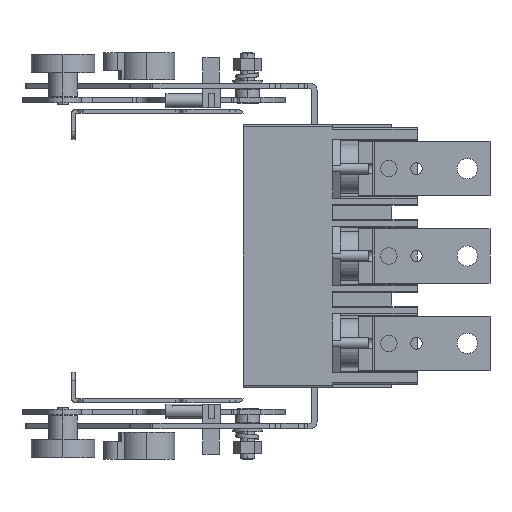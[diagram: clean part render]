
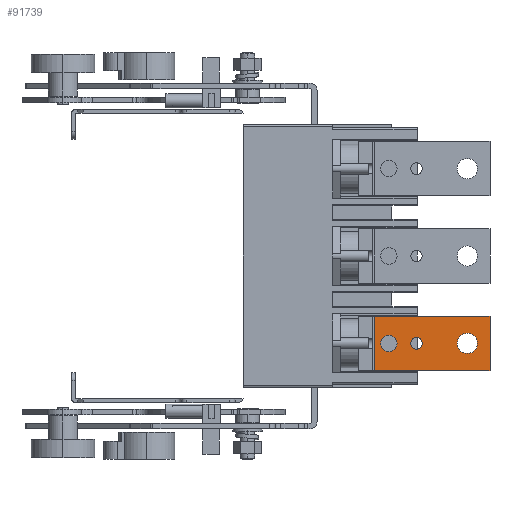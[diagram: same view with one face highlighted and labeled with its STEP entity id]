
A CAD part, left-side view. The second image highlights one B-rep face of the part: STEP entity #91739.
In plain terms, the highlighted planar face has unit normal (-1, 0, 0).
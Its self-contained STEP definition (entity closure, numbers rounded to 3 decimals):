
#3553 = DIRECTION ( 'NONE',  ( 0., 0., 1. ) ) ;
#4863 = CIRCLE ( 'NONE', #11337, 3.15 ) ;
#6441 = AXIS2_PLACEMENT_3D ( 'NONE', #20286, #66213, #82340 ) ;
#7737 = AXIS2_PLACEMENT_3D ( 'NONE', #97872, #91284, #76153 ) ;
#8260 = EDGE_CURVE ( 'NONE', #77635, #97843, #26303, .T. ) ;
#8426 = ORIENTED_EDGE ( 'NONE', *, *, #31070, .T. ) ;
#8600 = EDGE_CURVE ( 'NONE', #13919, #50043, #31215, .T. ) ;
#8610 = LINE ( 'NONE', #85832, #76577 ) ;
#9886 = VERTEX_POINT ( 'NONE', #49470 ) ;
#10900 = EDGE_CURVE ( 'NONE', #50043, #13919, #84464, .T. ) ;
#11337 = AXIS2_PLACEMENT_3D ( 'NONE', #35864, #82237, #3553 ) ;
#12318 = EDGE_LOOP ( 'NONE', ( #49306, #8426, #23110, #81994 ) ) ;
#13224 = LINE ( 'NONE', #81392, #27067 ) ;
#13567 = EDGE_LOOP ( 'NONE', ( #57336, #74879 ) ) ;
#13684 = EDGE_CURVE ( 'NONE', #79067, #81575, #91873, .T. ) ;
#13919 = VERTEX_POINT ( 'NONE', #57534 ) ;
#14409 = AXIS2_PLACEMENT_3D ( 'NONE', #60993, #20168, #29244 ) ;
#15205 = EDGE_CURVE ( 'NONE', #97843, #77635, #4863, .T. ) ;
#17504 = EDGE_CURVE ( 'NONE', #81575, #79067, #43302, .T. ) ;
#19807 = DIRECTION ( 'NONE',  ( 1., 0., 0. ) ) ;
#20168 = DIRECTION ( 'NONE',  ( -1., 0., 0. ) ) ;
#20286 = CARTESIAN_POINT ( 'NONE',  ( 1394.071, -193.187, 41.209 ) ) ;
#21511 = CARTESIAN_POINT ( 'NONE',  ( 1394.071, -208.337, 44.359 ) ) ;
#22001 = ORIENTED_EDGE ( 'NONE', *, *, #13684, .T. ) ;
#23048 = DIRECTION ( 'NONE',  ( 0., 0., 1. ) ) ;
#23110 = ORIENTED_EDGE ( 'NONE', *, *, #49175, .T. ) ;
#26303 = CIRCLE ( 'NONE', #82683, 3.15 ) ;
#27067 = VECTOR ( 'NONE', #43061, 1000. ) ;
#27999 = CARTESIAN_POINT ( 'NONE',  ( 1394.071, -236.287, 41.209 ) ) ;
#28892 = DIRECTION ( 'NONE',  ( 0., 0., 1. ) ) ;
#29244 = DIRECTION ( 'NONE',  ( 0., 0., 1. ) ) ;
#29401 = DIRECTION ( 'NONE',  ( 0., -1., 0. ) ) ;
#31070 = EDGE_CURVE ( 'NONE', #44235, #86354, #13224, .T. ) ;
#31215 = CIRCLE ( 'NONE', #87571, 5.55 ) ;
#31897 = VERTEX_POINT ( 'NONE', #48652 ) ;
#35864 = CARTESIAN_POINT ( 'NONE',  ( 1394.071, -208.337, 41.209 ) ) ;
#37184 = VECTOR ( 'NONE', #71478, 1000. ) ;
#39460 = DIRECTION ( 'NONE',  ( 0., 0., -1. ) ) ;
#40987 = AXIS2_PLACEMENT_3D ( 'NONE', #27999, #98590, #74396 ) ;
#43061 = DIRECTION ( 'NONE',  ( 0., 1., 0. ) ) ;
#43302 = CIRCLE ( 'NONE', #7737, 4.5 ) ;
#44235 = VERTEX_POINT ( 'NONE', #44491 ) ;
#44491 = CARTESIAN_POINT ( 'NONE',  ( 1394.071, -248.737, 56.209 ) ) ;
#44950 = EDGE_LOOP ( 'NONE', ( #50920, #22001 ) ) ;
#46131 = EDGE_LOOP ( 'NONE', ( #96541, #89077 ) ) ;
#46783 = CARTESIAN_POINT ( 'NONE',  ( 1394.071, -236.287, 41.209 ) ) ;
#48652 = CARTESIAN_POINT ( 'NONE',  ( 1394.071, -185.437, 26.209 ) ) ;
#49175 = EDGE_CURVE ( 'NONE', #86354, #31897, #8610, .T. ) ;
#49306 = ORIENTED_EDGE ( 'NONE', *, *, #70426, .T. ) ;
#49470 = CARTESIAN_POINT ( 'NONE',  ( 1394.071, -248.737, 26.209 ) ) ;
#50043 = VERTEX_POINT ( 'NONE', #76215 ) ;
#50920 = ORIENTED_EDGE ( 'NONE', *, *, #17504, .T. ) ;
#53585 = LINE ( 'NONE', #98500, #66291 ) ;
#55033 = EDGE_CURVE ( 'NONE', #31897, #9886, #53585, .T. ) ;
#55286 = FACE_OUTER_BOUND ( 'NONE', #12318, .T. ) ;
#57336 = ORIENTED_EDGE ( 'NONE', *, *, #15205, .T. ) ;
#57534 = CARTESIAN_POINT ( 'NONE',  ( 1394.071, -236.287, 46.759 ) ) ;
#60993 = CARTESIAN_POINT ( 'NONE',  ( 1394.071, -157.437, 41.209 ) ) ;
#62851 = FACE_BOUND ( 'NONE', #13567, .T. ) ;
#63423 = LINE ( 'NONE', #79551, #37184 ) ;
#65674 = CARTESIAN_POINT ( 'NONE',  ( 1394.071, -193.187, 45.709 ) ) ;
#66213 = DIRECTION ( 'NONE',  ( 1., 0., 0. ) ) ;
#66291 = VECTOR ( 'NONE', #29401, 1000. ) ;
#66724 = CARTESIAN_POINT ( 'NONE',  ( 1394.071, -208.337, 41.209 ) ) ;
#70426 = EDGE_CURVE ( 'NONE', #9886, #44235, #63423, .T. ) ;
#70433 = DIRECTION ( 'NONE',  ( 1., 0., 0. ) ) ;
#71478 = DIRECTION ( 'NONE',  ( 0., 0., 1. ) ) ;
#74396 = DIRECTION ( 'NONE',  ( 0., 0., 1. ) ) ;
#74879 = ORIENTED_EDGE ( 'NONE', *, *, #8260, .T. ) ;
#75363 = CARTESIAN_POINT ( 'NONE',  ( 1394.071, -185.437, 56.209 ) ) ;
#76153 = DIRECTION ( 'NONE',  ( 0., 0., 1. ) ) ;
#76215 = CARTESIAN_POINT ( 'NONE',  ( 1394.071, -236.287, 35.659 ) ) ;
#76577 = VECTOR ( 'NONE', #39460, 1000. ) ;
#77635 = VERTEX_POINT ( 'NONE', #93833 ) ;
#77989 = FACE_BOUND ( 'NONE', #46131, .T. ) ;
#79019 = CARTESIAN_POINT ( 'NONE',  ( 1394.071, -193.187, 36.709 ) ) ;
#79067 = VERTEX_POINT ( 'NONE', #79019 ) ;
#79551 = CARTESIAN_POINT ( 'NONE',  ( 1394.071, -248.737, 26.209 ) ) ;
#81392 = CARTESIAN_POINT ( 'NONE',  ( 1394.071, -250.437, 56.209 ) ) ;
#81575 = VERTEX_POINT ( 'NONE', #65674 ) ;
#81994 = ORIENTED_EDGE ( 'NONE', *, *, #55033, .T. ) ;
#82237 = DIRECTION ( 'NONE',  ( 1., 0., 0. ) ) ;
#82340 = DIRECTION ( 'NONE',  ( 0., 0., 1. ) ) ;
#82683 = AXIS2_PLACEMENT_3D ( 'NONE', #66724, #19807, #28892 ) ;
#84464 = CIRCLE ( 'NONE', #40987, 5.55 ) ;
#85832 = CARTESIAN_POINT ( 'NONE',  ( 1394.071, -185.437, 41.209 ) ) ;
#86053 = PLANE ( 'NONE',  #14409 ) ;
#86354 = VERTEX_POINT ( 'NONE', #75363 ) ;
#87571 = AXIS2_PLACEMENT_3D ( 'NONE', #46783, #70433, #23048 ) ;
#89077 = ORIENTED_EDGE ( 'NONE', *, *, #10900, .T. ) ;
#91284 = DIRECTION ( 'NONE',  ( 1., 0., 0. ) ) ;
#91739 = ADVANCED_FACE ( 'NONE', ( #77989, #62851, #93631, #55286 ), #86053, .T. ) ;
#91873 = CIRCLE ( 'NONE', #6441, 4.5 ) ;
#93631 = FACE_BOUND ( 'NONE', #44950, .T. ) ;
#93833 = CARTESIAN_POINT ( 'NONE',  ( 1394.071, -208.337, 38.059 ) ) ;
#96541 = ORIENTED_EDGE ( 'NONE', *, *, #8600, .T. ) ;
#97843 = VERTEX_POINT ( 'NONE', #21511 ) ;
#97872 = CARTESIAN_POINT ( 'NONE',  ( 1394.071, -193.187, 41.209 ) ) ;
#98500 = CARTESIAN_POINT ( 'NONE',  ( 1394.071, -158.437, 26.209 ) ) ;
#98590 = DIRECTION ( 'NONE',  ( 1., 0., 0. ) ) ;
